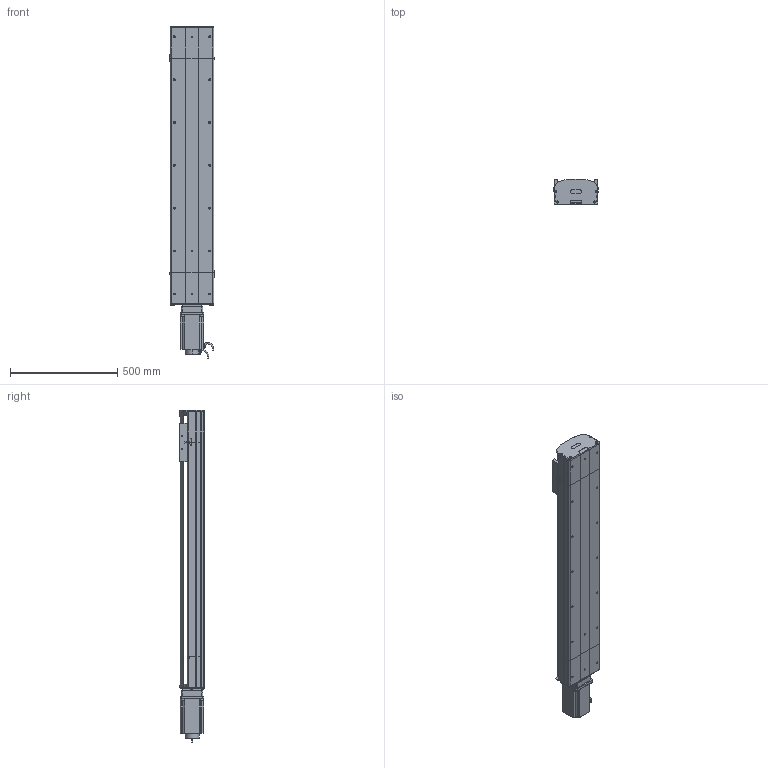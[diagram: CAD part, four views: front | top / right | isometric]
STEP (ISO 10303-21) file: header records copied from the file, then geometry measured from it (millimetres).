
FILE_DESCRIPTION (( 'STEP AP214' ), '1' );
FILE_NAME ('D20 TSH MD S1000.STEP', '2010-06-30T08:38:43', ( 'Conseil Régional Haute-Normandie' ), ( 'Conseil Régional Haute-Normandie' ), 'SwSTEP 2.0', 'SolidWorks 2010', '' );
FILE_SCHEMA (( 'AUTOMOTIVE_DESIGN' ));
Length unit declared in the file: millimetre
Products named in the file (33): Arbre+rail head D20; codeur 110BLDC170A-630x; corps 110BLDC170A-630x; avant 110BLDC170A-630x; Conecteur_Default; Moteur motionking 110BLDC170A-640x; Plaque racord D20_Default; Conecteur2_Default; couvercle head l D20_Default; 2 vis M5 L12_Default; tete d''axe haut D20; vis M5 L12_Default; Chariot D20; vis M5 L25_Default; vis M5 L8 90°_Default; corpl tail D20_Default; tail D20 S_Default; couvercle tail D20_Default; tete d''axe bas D20; plaque de  bout tail D20_Default; guide D20; vis M8 L12_Default; clavette; chariot D20S_Default; Arbre+rail tail D20; rail + arbre  D20 S1000; head MD D20_Default; D20 TSH MD S1000; corp D20 S1000_Default; couvercle D20 S1000_Default; corpl head MD D20_Default; course D20 L1000_Default; plaque de  bout head MD D20_Default
Assembly tree (56 placements, depth 4):
  D20 TSH MD S1000
    head MD D20_Default
      vis M8 L12_Default  x4
      corpl head MD D20_Default
      Moteur motionking 110BLDC170A-640x
        clavette
        Conecteur_Default
        avant 110BLDC170A-630x
        Conecteur2_Default
        codeur 110BLDC170A-630x
        corps 110BLDC170A-630x
      vis M5 L25_Default  x2
      2 vis M5 L12_Default  x6
      Arbre+rail head D20
      vis M5 L12_Default  x4
      Plaque racord D20_Default
      plaque de  bout head MD D20_Default
      couvercle head l D20_Default
    tail D20 S_Default
      2 vis M5 L12_Default  x4
      couvercle tail D20_Default
      plaque de  bout tail D20_Default
      vis M5 L8 90°_Default  x2
      vis M5 L25_Default  x2
      corpl tail D20_Default
      Arbre+rail tail D20
      tete d''axe haut D20
      tete d''axe bas D20
    course D20 L1000_Default
      corp D20 S1000_Default
      rail + arbre  D20 S1000
      couvercle D20 S1000_Default
    chariot D20S_Default
      Chariot D20
      vis M5 L12_Default  x4
      guide D20  x2
Bounding box: 206 x 115.7 x 1548.5 mm (x, y, z)
Volume: 12590307.6 mm3; surface area: 2629042.1 mm2
Topology: 81 solids, 81 shells, 2236 faces, 5637 edges, 3649 vertices
Faces by surface type: plane 1340, cylinder 620, bspline 136, torus 73, cone 67
Entity records: 73712 total; most frequent: CARTESIAN_POINT 24573, ORIENTED_EDGE 8678, DIRECTION 8090, EDGE_CURVE 4339, LINE 2878, VECTOR 2878, VERTEX_POINT 2861, AXIS2_PLACEMENT_3D 2606
